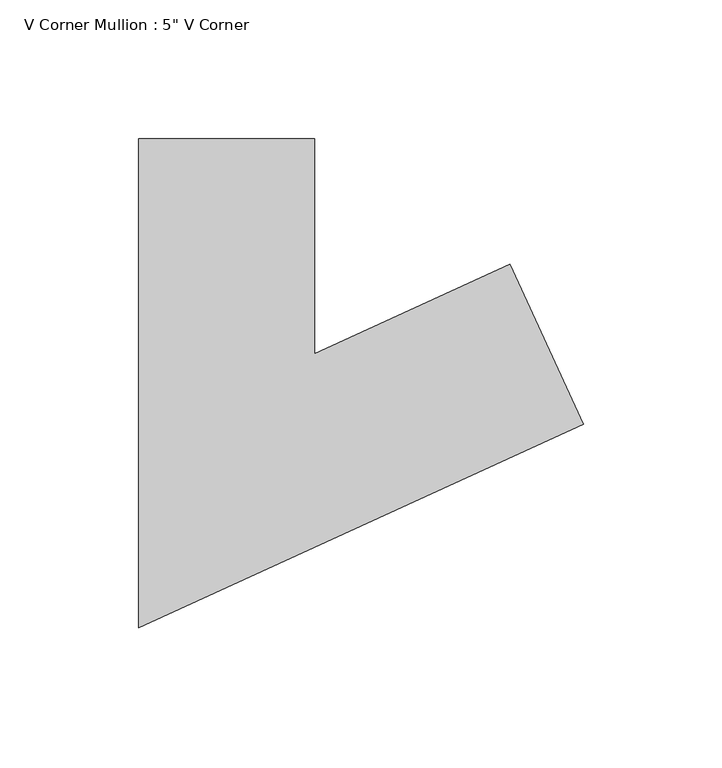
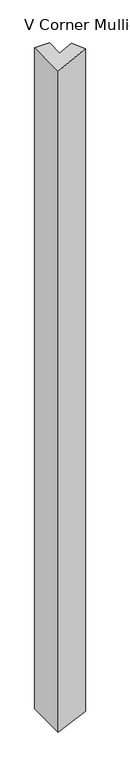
"""IFC4 building model written with IfcOpenShell, lengths in millimetres: member geometry."""

from ifc_helpers import new_model, si_unit, origin, place, context, project, spatial, faceted_brep, source, transform, mapped, element, save


def member_d7c8f077(model_context):
    return source(origin(), model_context, "Body", "Brep", [
        faceted_brep([(61.49523, 18.2208415, 1.2896412), (87.9205542, -39.5195451, 1.8438174), (87.9205542, -39.5195451, -3033.8820957), (61.49523, 18.2208415, -3033.274885), (-9.0228811, -14.0523047, -0.1892225), (-9.0228811, -14.0523047, -3031.6544943), (-9.0228811, 63.5, -0.1892225), (-9.0228811, 63.5, -3031.6544943), (-72.5228811, 63.5, -1.5209065), (-72.5228811, 63.5, -3030.1953684), (-72.5228811, -112.9476953, -1.5209065), (-72.5228811, -112.9476953, -3030.1953684)], [[[0, 1, 2, 3]], [[4, 0, 3, 5]], [[6, 4, 5, 7]], [[8, 6, 7, 9]], [[10, 8, 9, 11]], [[1, 10, 11, 2]], [[1, 0, 4, 6, 8, 10]], [[2, 11, 9, 7, 5, 3]]]),
    ])


if __name__ == "__main__":
    model = new_model("IFC4")
    model_context = context("Model", 3, world=origin())
    ifc_project = project(units=[si_unit("LENGTHUNIT", "METRE", prefix="MILLI")], contexts=[model_context])
    site = spatial("IfcSite", under=ifc_project)
    building = spatial("IfcBuilding", under=site)
    placement = place(None, origin())
    member_shape = member_d7c8f077(model_context)
    element("IfcMember", 1, ObjectType="V Corner Mullion : 5\" V Corner", at=placement, inside=building, context=model_context, shape_type="MappedRepresentation", body=[
        mapped(member_shape, transform((0.0, 0.0, 0.0), x_axis=(1.0, 0.0, 0.0), y_axis=(0.0, 1.0, 0.0), z_axis=(0.0, 0.0, 1.0))),
    ])
    save(model, "model.ifc")
